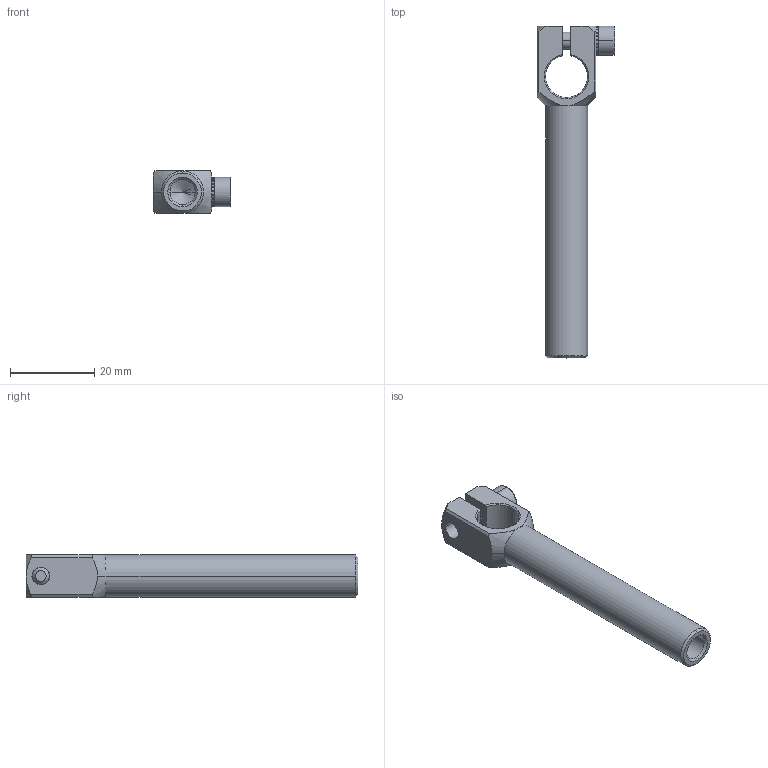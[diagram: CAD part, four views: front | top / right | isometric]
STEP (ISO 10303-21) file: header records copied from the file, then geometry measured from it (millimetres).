
FILE_DESCRIPTION (( 'STEP AP214' ), '1' );
FILE_NAME ('SCA1-1010L60T.STEP', '2023-01-11T06:08:14', ( 'Windows User' ), ( 'P R C' ), 'SwSTEP 2.0', 'SolidWorks 2019', '' );
FILE_SCHEMA (( 'AUTOMOTIVE_DESIGN' ));
Length unit declared in the file: millimetre
Products named in the file (1): SCA1-1010L60T
Bounding box: 18.5 x 79 x 10 mm (x, y, z)
Volume: 4839.4 mm3; surface area: 4785.9 mm2
Topology: 3 solids, 3 shells, 257 faces, 730 edges, 478 vertices
Faces by surface type: plane 211, cylinder 23, cone 21, bspline 2
Entity records: 11454 total; most frequent: CARTESIAN_POINT 1706, DIRECTION 1469, ORIENTED_EDGE 1456, EDGE_CURVE 728, AXIS2_PLACEMENT_3D 508, VERTEX_POINT 478, VECTOR 453, LINE 453
